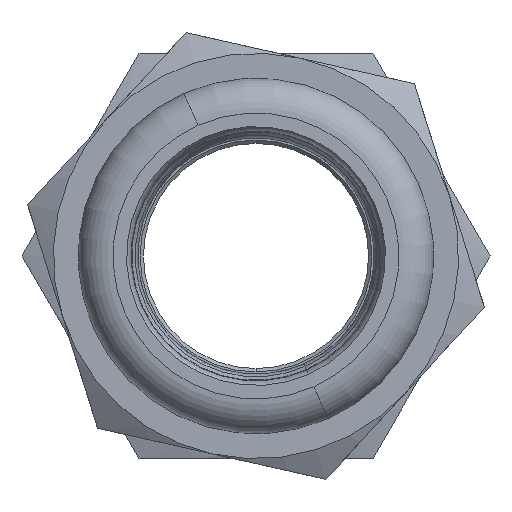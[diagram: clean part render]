
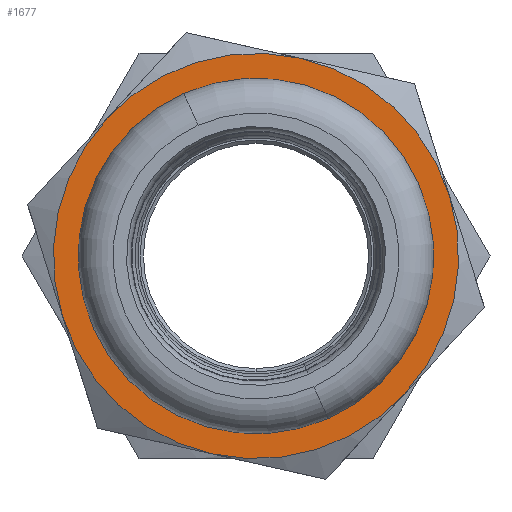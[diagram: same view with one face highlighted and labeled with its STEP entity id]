
A CAD part, left-side view. The second image highlights one B-rep face of the part: STEP entity #1677.
In plain terms, the highlighted planar face has unit normal (-1, 0, 0) as drawn and (0, 1, 0) by its records, which use the part's own axes.
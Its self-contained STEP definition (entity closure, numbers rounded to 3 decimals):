
#36 = CARTESIAN_POINT ( 'NONE',  ( -15.588, 17., 9. ) ) ;
#93 = AXIS2_PLACEMENT_3D ( 'NONE', #2313, #1979, #3258 ) ;
#99 = DIRECTION ( 'NONE',  ( 0., 0., 1. ) ) ;
#168 = EDGE_LOOP ( 'NONE', ( #989, #1668, #2177, #325, #1589, #1415 ) ) ;
#185 = AXIS2_PLACEMENT_3D ( 'NONE', #1236, #3504, #3164 ) ;
#235 = CARTESIAN_POINT ( 'NONE',  ( 0., 17., 18. ) ) ;
#275 = CARTESIAN_POINT ( 'NONE',  ( 0., 17., 12.9 ) ) ;
#325 = ORIENTED_EDGE ( 'NONE', *, *, #892, .T. ) ;
#347 = CIRCLE ( 'NONE', #371, 18. ) ;
#371 = AXIS2_PLACEMENT_3D ( 'NONE', #2109, #2466, #1482 ) ;
#384 = ORIENTED_EDGE ( 'NONE', *, *, #2475, .F. ) ;
#437 = EDGE_CURVE ( 'NONE', #825, #3239, #2808, .T. ) ;
#548 = CARTESIAN_POINT ( 'NONE',  ( 0., 17., 0. ) ) ;
#794 = EDGE_CURVE ( 'NONE', #1690, #2483, #347, .T. ) ;
#825 = VERTEX_POINT ( 'NONE', #3764 ) ;
#857 = VERTEX_POINT ( 'NONE', #235 ) ;
#892 = EDGE_CURVE ( 'NONE', #2483, #925, #3043, .T. ) ;
#925 = VERTEX_POINT ( 'NONE', #2541 ) ;
#975 = CIRCLE ( 'NONE', #2430, 12.9 ) ;
#989 = ORIENTED_EDGE ( 'NONE', *, *, #4080, .T. ) ;
#1031 = CARTESIAN_POINT ( 'NONE',  ( 0., 17., 0. ) ) ;
#1044 = CARTESIAN_POINT ( 'NONE',  ( 15.588, 17., 9. ) ) ;
#1228 = CIRCLE ( 'NONE', #1835, 12.9 ) ;
#1236 = CARTESIAN_POINT ( 'NONE',  ( 0., 17., 0. ) ) ;
#1327 = DIRECTION ( 'NONE',  ( 0., 1., 0. ) ) ;
#1415 = ORIENTED_EDGE ( 'NONE', *, *, #437, .T. ) ;
#1417 = EDGE_CURVE ( 'NONE', #857, #1690, #2388, .T. ) ;
#1482 = DIRECTION ( 'NONE',  ( 0., 0., 1. ) ) ;
#1589 = ORIENTED_EDGE ( 'NONE', *, *, #2292, .T. ) ;
#1668 = ORIENTED_EDGE ( 'NONE', *, *, #1417, .T. ) ;
#1669 = DIRECTION ( 'NONE',  ( 0., 0., 1. ) ) ;
#1677 = ADVANCED_FACE ( 'NONE', ( #3486, #3538 ), #1929, .T. ) ;
#1690 = VERTEX_POINT ( 'NONE', #1044 ) ;
#1714 = DIRECTION ( 'NONE',  ( 0., 1., 0. ) ) ;
#1835 = AXIS2_PLACEMENT_3D ( 'NONE', #3626, #3271, #2983 ) ;
#1929 = PLANE ( 'NONE',  #3463 ) ;
#1979 = DIRECTION ( 'NONE',  ( 0., 1., 0. ) ) ;
#2018 = CARTESIAN_POINT ( 'NONE',  ( 0., 17., 0. ) ) ;
#2027 = DIRECTION ( 'NONE',  ( 0., 0., 1. ) ) ;
#2031 = VERTEX_POINT ( 'NONE', #275 ) ;
#2050 = CIRCLE ( 'NONE', #2193, 18. ) ;
#2092 = CARTESIAN_POINT ( 'NONE',  ( 15.588, 17., -9. ) ) ;
#2109 = CARTESIAN_POINT ( 'NONE',  ( 0., 17., 0. ) ) ;
#2177 = ORIENTED_EDGE ( 'NONE', *, *, #794, .T. ) ;
#2193 = AXIS2_PLACEMENT_3D ( 'NONE', #3914, #1714, #2027 ) ;
#2202 = CIRCLE ( 'NONE', #93, 18. ) ;
#2292 = EDGE_CURVE ( 'NONE', #925, #825, #2202, .T. ) ;
#2313 = CARTESIAN_POINT ( 'NONE',  ( 0., 17., 0. ) ) ;
#2388 = CIRCLE ( 'NONE', #3752, 18. ) ;
#2407 = AXIS2_PLACEMENT_3D ( 'NONE', #2018, #3006, #99 ) ;
#2430 = AXIS2_PLACEMENT_3D ( 'NONE', #548, #4015, #3074 ) ;
#2466 = DIRECTION ( 'NONE',  ( 0., 1., 0. ) ) ;
#2475 = EDGE_CURVE ( 'NONE', #3495, #2031, #975, .T. ) ;
#2483 = VERTEX_POINT ( 'NONE', #2092 ) ;
#2541 = CARTESIAN_POINT ( 'NONE',  ( 0., 17., -18. ) ) ;
#2808 = CIRCLE ( 'NONE', #2407, 18. ) ;
#2907 = EDGE_CURVE ( 'NONE', #2031, #3495, #1228, .T. ) ;
#2983 = DIRECTION ( 'NONE',  ( 0., 0., 1. ) ) ;
#3006 = DIRECTION ( 'NONE',  ( 0., 1., 0. ) ) ;
#3014 = CARTESIAN_POINT ( 'NONE',  ( 0., 17., 0. ) ) ;
#3043 = CIRCLE ( 'NONE', #185, 18. ) ;
#3074 = DIRECTION ( 'NONE',  ( 0., 0., 1. ) ) ;
#3164 = DIRECTION ( 'NONE',  ( 0., 0., 1. ) ) ;
#3239 = VERTEX_POINT ( 'NONE', #36 ) ;
#3258 = DIRECTION ( 'NONE',  ( 0., 0., 1. ) ) ;
#3271 = DIRECTION ( 'NONE',  ( 0., 1., 0. ) ) ;
#3369 = ORIENTED_EDGE ( 'NONE', *, *, #2907, .F. ) ;
#3463 = AXIS2_PLACEMENT_3D ( 'NONE', #1031, #1327, #1669 ) ;
#3486 = FACE_BOUND ( 'NONE', #4077, .T. ) ;
#3495 = VERTEX_POINT ( 'NONE', #4010 ) ;
#3504 = DIRECTION ( 'NONE',  ( 0., 1., 0. ) ) ;
#3538 = FACE_OUTER_BOUND ( 'NONE', #168, .T. ) ;
#3626 = CARTESIAN_POINT ( 'NONE',  ( 0., 17., 0. ) ) ;
#3633 = DIRECTION ( 'NONE',  ( 0., 0., 1. ) ) ;
#3752 = AXIS2_PLACEMENT_3D ( 'NONE', #3014, #3983, #3633 ) ;
#3764 = CARTESIAN_POINT ( 'NONE',  ( -15.588, 17., -9. ) ) ;
#3914 = CARTESIAN_POINT ( 'NONE',  ( 0., 17., 0. ) ) ;
#3983 = DIRECTION ( 'NONE',  ( 0., 1., 0. ) ) ;
#4010 = CARTESIAN_POINT ( 'NONE',  ( 0., 17., -12.9 ) ) ;
#4015 = DIRECTION ( 'NONE',  ( 0., 1., 0. ) ) ;
#4077 = EDGE_LOOP ( 'NONE', ( #3369, #384 ) ) ;
#4080 = EDGE_CURVE ( 'NONE', #3239, #857, #2050, .T. ) ;
